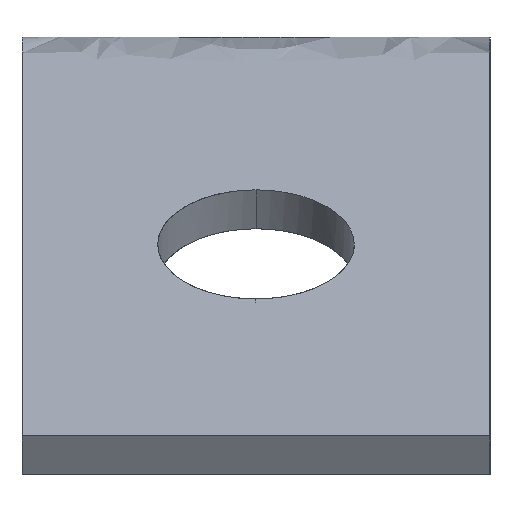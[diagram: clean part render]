
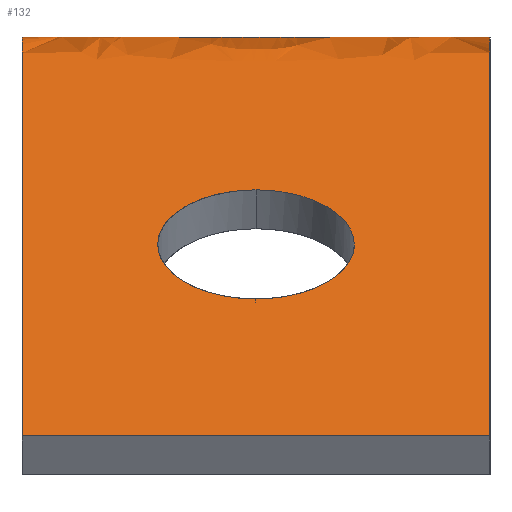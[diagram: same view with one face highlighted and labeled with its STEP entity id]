
A CAD part, left-side view. The second image highlights one B-rep face of the part: STEP entity #132.
In plain terms, the highlighted free-form (B-spline) face has degree [2, 1] with [11, 2] control points.
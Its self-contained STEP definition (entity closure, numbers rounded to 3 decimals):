
#16=FACE_BOUND($,#160,.T.);
#17=FACE_BOUND($,#161,.T.);
#18=FACE_BOUND($,#162,.T.);
#132=ADVANCED_FACE($,(#145,#16,#17,#18),#338,.T.);
#145=FACE_OUTER_BOUND($,#159,.T.);
#159=EDGE_LOOP($,(#202,#203,#204,#205));
#160=EDGE_LOOP($,(#206));
#161=EDGE_LOOP($,(#207));
#162=EDGE_LOOP($,(#208));
#202=ORIENTED_EDGE($,*,*,#259,.T.);
#203=ORIENTED_EDGE($,*,*,#257,.T.);
#204=ORIENTED_EDGE($,*,*,#258,.F.);
#205=ORIENTED_EDGE($,*,*,#256,.F.);
#206=ORIENTED_EDGE($,*,*,#260,.T.);
#207=ORIENTED_EDGE($,*,*,#261,.T.);
#208=ORIENTED_EDGE($,*,*,#262,.T.);
#256=EDGE_CURVE($,#305,#304,#379,.T.);
#257=EDGE_CURVE($,#307,#306,#380,.T.);
#258=EDGE_CURVE($,#304,#306,#352,.T.);
#259=EDGE_CURVE($,#305,#307,#353,.T.);
#260=EDGE_CURVE($,#308,#308,#381,.T.);
#261=EDGE_CURVE($,#309,#309,#382,.T.);
#262=EDGE_CURVE($,#310,#310,#383,.T.);
#304=VERTEX_POINT($,#698);
#305=VERTEX_POINT($,#699);
#306=VERTEX_POINT($,#700);
#307=VERTEX_POINT($,#701);
#308=VERTEX_POINT($,#702);
#309=VERTEX_POINT($,#703);
#310=VERTEX_POINT($,#704);
#338=(
BOUNDED_SURFACE()
B_SPLINE_SURFACE(2,1,((#676,#677),(#678,#679),(#680,#681),(#682,#683),(#684,
#685),(#686,#687),(#688,#689),(#690,#691),(#692,#693),(#694,#695),(#696,
#697)),.UNSPECIFIED.,.F.,.F.,.F.)
B_SPLINE_SURFACE_WITH_KNOTS((3,2,2,2,2,3),(2,2),(358.449,520.708,
523.061,550.638,552.991,715.251),(0.,
20.),.UNSPECIFIED.)
GEOMETRIC_REPRESENTATION_ITEM()
RATIONAL_B_SPLINE_SURFACE(((1.,1.),(1.,1.),(1.,1.),(0.957,0.957),
(1.,1.),(1.,1.),(1.,1.),(0.957,0.957),(1.,1.),(1.,
1.),(1.,1.)))
REPRESENTATION_ITEM($)
SURFACE()
);
#352=B_SPLINE_CURVE_WITH_KNOTS($,1,(#645,#646),.UNSPECIFIED.,.F.,.F.,(2,
2),(0.,20.),.UNSPECIFIED.);
#353=B_SPLINE_CURVE_WITH_KNOTS($,1,(#647,#648),.UNSPECIFIED.,.F.,.F.,(2,
2),(0.,20.),.UNSPECIFIED.);
#379=(
BOUNDED_CURVE()
B_SPLINE_CURVE(2,(#623,#624,#625,#626,#627,#628,#629,#630,#631,#632,#633),
.UNSPECIFIED.,.F.,.F.)
B_SPLINE_CURVE_WITH_KNOTS((3,2,2,2,2,3),(-715.251,-552.991,
-550.638,-523.061,-520.708,-358.449),.UNSPECIFIED.)
CURVE()
GEOMETRIC_REPRESENTATION_ITEM()
RATIONAL_B_SPLINE_CURVE((1.,1.,1.,0.957,1.,1.,1.,0.957,
1.,1.,1.))
REPRESENTATION_ITEM($)
);
#380=(
BOUNDED_CURVE()
B_SPLINE_CURVE(2,(#634,#635,#636,#637,#638,#639,#640,#641,#642,#643,#644),
.UNSPECIFIED.,.F.,.F.)
B_SPLINE_CURVE_WITH_KNOTS((3,2,2,2,2,3),(-715.251,-552.991,
-550.638,-523.061,-520.708,-358.449),.UNSPECIFIED.)
CURVE()
GEOMETRIC_REPRESENTATION_ITEM()
RATIONAL_B_SPLINE_CURVE((1.,1.,1.,0.957,1.,1.,1.,0.957,
1.,1.,1.))
REPRESENTATION_ITEM($)
);
#381=(
BOUNDED_CURVE()
B_SPLINE_CURVE(2,(#649,#650,#651,#652,#653,#654,#655,#656,#657),.UNSPECIFIED.,
.T.,.F.)
B_SPLINE_CURVE_WITH_KNOTS((3,2,2,2,3),(0.,6.597,13.193,
19.79,26.386),.UNSPECIFIED.)
CURVE()
GEOMETRIC_REPRESENTATION_ITEM()
RATIONAL_B_SPLINE_CURVE((1.,0.707,1.,0.707,1.,0.707,
1.,0.707,1.))
REPRESENTATION_ITEM($)
);
#382=(
BOUNDED_CURVE()
B_SPLINE_CURVE(2,(#658,#659,#660,#661,#662,#663,#664,#665,#666),.UNSPECIFIED.,
.T.,.F.)
B_SPLINE_CURVE_WITH_KNOTS((3,2,2,2,3),(0.,6.601,13.201,
19.802,26.402),.UNSPECIFIED.)
CURVE()
GEOMETRIC_REPRESENTATION_ITEM()
RATIONAL_B_SPLINE_CURVE((1.,0.707,1.,0.707,1.,0.707,
1.,0.707,1.))
REPRESENTATION_ITEM($)
);
#383=(
BOUNDED_CURVE()
B_SPLINE_CURVE(2,(#667,#668,#669,#670,#671,#672,#673,#674,#675),.UNSPECIFIED.,
.T.,.F.)
B_SPLINE_CURVE_WITH_KNOTS((3,2,2,2,3),(-26.402,-19.802,
-13.201,-6.601,0.),.UNSPECIFIED.)
CURVE()
GEOMETRIC_REPRESENTATION_ITEM()
RATIONAL_B_SPLINE_CURVE((1.,0.707,1.,0.707,1.,0.707,
1.,0.707,1.))
REPRESENTATION_ITEM($)
);
#623=CARTESIAN_POINT($,(40.545,-10.,-17.039));
#624=CARTESIAN_POINT($,(28.277,-10.,-8.856));
#625=CARTESIAN_POINT($,(16.008,-10.,-0.672));
#626=CARTESIAN_POINT($,(15.,-10.,0.));
#627=CARTESIAN_POINT($,(13.788,-10.,0.));
#628=CARTESIAN_POINT($,(0.,-10.,0.));
#629=CARTESIAN_POINT($,(-13.788,-10.,0.));
#630=CARTESIAN_POINT($,(-15.,-10.,0.));
#631=CARTESIAN_POINT($,(-16.008,-10.,-0.672));
#632=CARTESIAN_POINT($,(-28.277,-10.,-8.856));
#633=CARTESIAN_POINT($,(-40.545,-10.,-17.039));
#634=CARTESIAN_POINT($,(40.545,10.,-17.039));
#635=CARTESIAN_POINT($,(28.277,10.,-8.856));
#636=CARTESIAN_POINT($,(16.008,10.,-0.672));
#637=CARTESIAN_POINT($,(15.,10.,0.));
#638=CARTESIAN_POINT($,(13.788,10.,0.));
#639=CARTESIAN_POINT($,(0.,10.,0.));
#640=CARTESIAN_POINT($,(-13.788,10.,0.));
#641=CARTESIAN_POINT($,(-15.,10.,0.));
#642=CARTESIAN_POINT($,(-16.008,10.,-0.672));
#643=CARTESIAN_POINT($,(-28.277,10.,-8.856));
#644=CARTESIAN_POINT($,(-40.545,10.,-17.039));
#645=CARTESIAN_POINT($,(-40.545,-10.,-17.039));
#646=CARTESIAN_POINT($,(-40.545,10.,-17.039));
#647=CARTESIAN_POINT($,(40.545,-10.,-17.039));
#648=CARTESIAN_POINT($,(40.545,10.,-17.039));
#649=CARTESIAN_POINT($,(4.2,0.,0.));
#650=CARTESIAN_POINT($,(4.2,-4.2,0.));
#651=CARTESIAN_POINT($,(0.,-4.2,0.));
#652=CARTESIAN_POINT($,(-4.2,-4.2,0.));
#653=CARTESIAN_POINT($,(-4.2,0.,0.));
#654=CARTESIAN_POINT($,(-4.2,4.2,0.));
#655=CARTESIAN_POINT($,(0.,4.2,0.));
#656=CARTESIAN_POINT($,(4.2,4.2,0.));
#657=CARTESIAN_POINT($,(4.2,0.,0.));
#658=CARTESIAN_POINT($,(-24.783,0.,-6.525));
#659=CARTESIAN_POINT($,(-24.783,-4.2,-6.525));
#660=CARTESIAN_POINT($,(-28.277,-4.2,-8.856));
#661=CARTESIAN_POINT($,(-31.771,-4.2,-11.186));
#662=CARTESIAN_POINT($,(-31.771,0.,-11.186));
#663=CARTESIAN_POINT($,(-31.771,4.2,-11.186));
#664=CARTESIAN_POINT($,(-28.277,4.2,-8.856));
#665=CARTESIAN_POINT($,(-24.783,4.2,-6.525));
#666=CARTESIAN_POINT($,(-24.783,0.,-6.525));
#667=CARTESIAN_POINT($,(24.783,0.,-6.525));
#668=CARTESIAN_POINT($,(24.783,4.2,-6.525));
#669=CARTESIAN_POINT($,(28.277,4.2,-8.856));
#670=CARTESIAN_POINT($,(31.771,4.2,-11.186));
#671=CARTESIAN_POINT($,(31.771,0.,-11.186));
#672=CARTESIAN_POINT($,(31.771,-4.2,-11.186));
#673=CARTESIAN_POINT($,(28.277,-4.2,-8.856));
#674=CARTESIAN_POINT($,(24.783,-4.2,-6.525));
#675=CARTESIAN_POINT($,(24.783,0.,-6.525));
#676=CARTESIAN_POINT($,(-40.545,-10.,-17.039));
#677=CARTESIAN_POINT($,(-40.545,10.,-17.039));
#678=CARTESIAN_POINT($,(-28.277,-10.,-8.856));
#679=CARTESIAN_POINT($,(-28.277,10.,-8.856));
#680=CARTESIAN_POINT($,(-16.008,-10.,-0.672));
#681=CARTESIAN_POINT($,(-16.008,10.,-0.672));
#682=CARTESIAN_POINT($,(-15.,-10.,0.));
#683=CARTESIAN_POINT($,(-15.,10.,0.));
#684=CARTESIAN_POINT($,(-13.788,-10.,0.));
#685=CARTESIAN_POINT($,(-13.788,10.,0.));
#686=CARTESIAN_POINT($,(0.,-10.,0.));
#687=CARTESIAN_POINT($,(0.,10.,0.));
#688=CARTESIAN_POINT($,(13.788,-10.,0.));
#689=CARTESIAN_POINT($,(13.788,10.,0.));
#690=CARTESIAN_POINT($,(15.,-10.,0.));
#691=CARTESIAN_POINT($,(15.,10.,0.));
#692=CARTESIAN_POINT($,(16.008,-10.,-0.672));
#693=CARTESIAN_POINT($,(16.008,10.,-0.672));
#694=CARTESIAN_POINT($,(28.277,-10.,-8.856));
#695=CARTESIAN_POINT($,(28.277,10.,-8.856));
#696=CARTESIAN_POINT($,(40.545,-10.,-17.039));
#697=CARTESIAN_POINT($,(40.545,10.,-17.039));
#698=CARTESIAN_POINT($,(-40.545,-10.,-17.039));
#699=CARTESIAN_POINT($,(40.545,-10.,-17.039));
#700=CARTESIAN_POINT($,(-40.545,10.,-17.039));
#701=CARTESIAN_POINT($,(40.545,10.,-17.039));
#702=CARTESIAN_POINT($,(4.2,0.,0.));
#703=CARTESIAN_POINT($,(-24.783,0.,-6.525));
#704=CARTESIAN_POINT($,(24.783,0.,-6.525));
